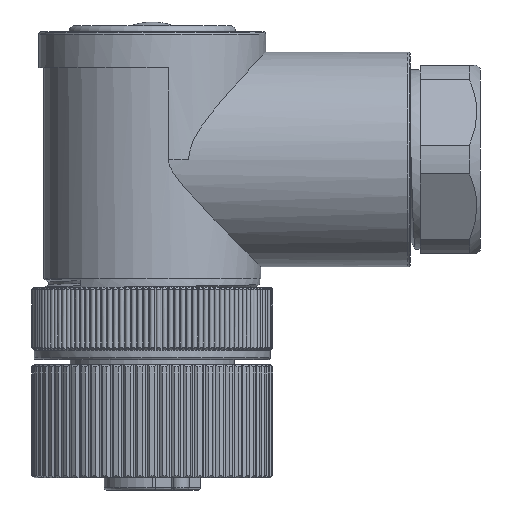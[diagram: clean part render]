
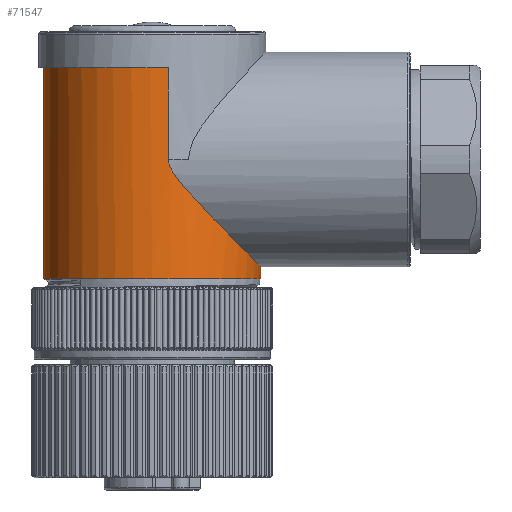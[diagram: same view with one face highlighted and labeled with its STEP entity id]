
A CAD part, front view. The second image highlights one B-rep face of the part: STEP entity #71547.
In plain terms, the highlighted cylindrical face has radius 9 mm (diameter 18 mm), a partial arc.
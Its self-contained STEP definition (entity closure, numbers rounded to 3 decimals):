
#20776=CARTESIAN_POINT('',(0.,0.,5.));
#20777=DIRECTION('',(0.,0.,-1.));
#20778=DIRECTION('',(1.,0.,0.));
#20779=AXIS2_PLACEMENT_3D('',#20776,#20777,#20778);
#20859=CARTESIAN_POINT('',(9.,0.,6.));
#20860=CARTESIAN_POINT('',(9.,-0.089,
6.));
#20861=CARTESIAN_POINT('',(8.997,-0.267,
6.003));
#20862=CARTESIAN_POINT('',(8.985,-0.534,
6.015));
#20863=CARTESIAN_POINT('',(8.966,-0.801,
6.035));
#20864=CARTESIAN_POINT('',(8.938,-1.068,
6.063));
#20865=CARTESIAN_POINT('',(8.902,-1.335,
6.099));
#20866=CARTESIAN_POINT('',(8.858,-1.603,
6.144));
#20867=CARTESIAN_POINT('',(8.805,-1.871,
6.197));
#20868=CARTESIAN_POINT('',(8.744,-2.139,
6.259));
#20869=CARTESIAN_POINT('',(8.674,-2.407,
6.33));
#20870=CARTESIAN_POINT('',(8.595,-2.676,
6.41));
#20871=CARTESIAN_POINT('',(8.506,-2.944,
6.5));
#20872=CARTESIAN_POINT('',(8.409,-3.213,
6.599));
#20873=CARTESIAN_POINT('',(8.301,-3.482,
6.708));
#20874=CARTESIAN_POINT('',(8.183,-3.75,
6.827));
#20875=CARTESIAN_POINT('',(8.055,-4.018,
6.957));
#20876=CARTESIAN_POINT('',(7.917,-4.285,
7.097));
#20877=CARTESIAN_POINT('',(7.767,-4.551,
7.249));
#20878=CARTESIAN_POINT('',(7.606,-4.815,
7.413));
#20879=CARTESIAN_POINT('',(7.433,-5.078,
7.588));
#20880=CARTESIAN_POINT('',(7.248,-5.338,
7.776));
#20881=CARTESIAN_POINT('',(7.052,-5.596,
7.977));
#20882=CARTESIAN_POINT('',(6.842,-5.85,
8.19));
#20883=CARTESIAN_POINT('',(6.62,-6.1,
8.416));
#20884=CARTESIAN_POINT('',(6.386,-6.345,
8.656));
#20885=CARTESIAN_POINT('',(6.138,-6.585,
8.909));
#20886=CARTESIAN_POINT('',(5.878,-6.818,
9.176));
#20887=CARTESIAN_POINT('',(5.605,-7.045,
9.457));
#20888=CARTESIAN_POINT('',(5.319,-7.263,
9.751));
#20889=CARTESIAN_POINT('',(5.022,-7.472,
10.06));
#20890=CARTESIAN_POINT('',(4.712,-7.671,
10.381));
#20891=CARTESIAN_POINT('',(4.393,-7.858,
10.716));
#20892=CARTESIAN_POINT('',(4.063,-8.034,
11.063));
#20893=CARTESIAN_POINT('',(3.727,-8.195,
11.42));
#20894=CARTESIAN_POINT('',(3.384,-8.342,
11.791));
#20895=CARTESIAN_POINT('',(3.048,-8.471,
12.16));
#20896=CARTESIAN_POINT('',(2.758,-8.568,
12.487));
#20897=CARTESIAN_POINT('',(2.508,-8.644,
12.776));
#20898=CARTESIAN_POINT('',(2.292,-8.704,
13.037));
#20899=CARTESIAN_POINT('',(2.107,-8.751,
13.27));
#20900=CARTESIAN_POINT('',(1.949,-8.787,
13.481));
#20901=CARTESIAN_POINT('',(1.816,-8.815,
13.67));
#20902=CARTESIAN_POINT('',(1.705,-8.837,
13.84));
#20903=CARTESIAN_POINT('',(1.615,-8.854,
13.993));
#20904=CARTESIAN_POINT('',(1.542,-8.867,
14.13));
#20905=CARTESIAN_POINT('',(1.485,-8.877,
14.252));
#20906=CARTESIAN_POINT('',(1.441,-8.884,
14.362));
#20907=CARTESIAN_POINT('',(1.406,-8.889,
14.464));
#20908=CARTESIAN_POINT('',(1.38,-8.894,
14.558));
#20909=CARTESIAN_POINT('',(1.361,-8.897,
14.647));
#20910=CARTESIAN_POINT('',(1.347,-8.899,
14.733));
#20911=CARTESIAN_POINT('',(1.34,-8.9,
14.817));
#20912=CARTESIAN_POINT('',(1.338,-8.9,
14.872));
#20913=CARTESIAN_POINT('',(1.338,-8.9,
14.9));
#28941=DIRECTION('',(0.,0.,-1.));
#28942=VECTOR('',#28941,1.);
#28943=CARTESIAN_POINT('',(9.,0.,6.));
#28944=LINE('',#28943,#28942);
#28945=DIRECTION('',(0.,0.,-1.));
#28946=VECTOR('',#28945,17.5);
#28947=CARTESIAN_POINT('',(-9.,0.,22.5));
#28948=LINE('',#28947,#28946);
#28949=DIRECTION('',(0.,0.,1.));
#28950=VECTOR('',#28949,7.581);
#28951=CARTESIAN_POINT('',(1.338,-8.9,
14.919));
#28952=LINE('',#28951,#28950);
#28953=CARTESIAN_POINT('',(1.338,-8.9,
14.9));
#28954=CARTESIAN_POINT('',(1.338,-8.9,
14.906));
#28955=CARTESIAN_POINT('',(1.338,-8.9,
14.913));
#28956=CARTESIAN_POINT('',(1.338,-8.9,
14.919));
#28962=CARTESIAN_POINT('',(0.,0.,22.5));
#28963=DIRECTION('',(0.,0.,1.));
#28964=DIRECTION('',(-1.,0.,0.));
#28965=AXIS2_PLACEMENT_3D('',#28962,#28963,#28964);
#42703=CARTESIAN_POINT('',(1.338,-8.9,22.5));
#42705=VERTEX_POINT('',#42703);
#42708=CARTESIAN_POINT('',(1.338,-8.9,
14.9));
#42710=VERTEX_POINT('',#42708);
#42980=CARTESIAN_POINT('',(9.,0.,6.));
#42982=VERTEX_POINT('',#42980);
#43007=CARTESIAN_POINT('',(-9.,0.,22.5));
#43008=CARTESIAN_POINT('',(-9.,0.,5.));
#43009=VERTEX_POINT('',#43007);
#43010=VERTEX_POINT('',#43008);
#43011=CARTESIAN_POINT('',(9.,0.,5.));
#43012=VERTEX_POINT('',#43011);
#43015=CARTESIAN_POINT('',(1.338,-8.9,
14.919));
#43016=VERTEX_POINT('',#43015);
#71530=CARTESIAN_POINT('',(0.,0.,4.5));
#71531=DIRECTION('',(0.,0.,-1.));
#71532=DIRECTION('',(-1.,0.,0.));
#71533=AXIS2_PLACEMENT_3D('',#71530,#71531,#71532);
#71534=CYLINDRICAL_SURFACE('',#71533,9.);
#71535=ORIENTED_EDGE('',*,*,#65577,.F.);
#71536=ORIENTED_EDGE('',*,*,#65462,.T.);
#71537=ORIENTED_EDGE('',*,*,#65433,.T.);
#71538=ORIENTED_EDGE('',*,*,#65459,.F.);
#71540=ORIENTED_EDGE('',*,*,#71539,.T.);
#71542=ORIENTED_EDGE('',*,*,#71541,.F.);
#71544=ORIENTED_EDGE('',*,*,#71543,.F.);
#71545=EDGE_LOOP('',(#71535,#71536,#71537,#71538,#71540,#71542,#71544));
#71546=FACE_OUTER_BOUND('',#71545,.F.);
#71547=ADVANCED_FACE('',(#71546),#71534,.T.);
#20780=CIRCLE('',#20779,9.);
#20914=B_SPLINE_CURVE_WITH_KNOTS('',3,(#20859,#20860,#20861,#20862,#20863,
#20864,#20865,#20866,#20867,#20868,#20869,#20870,#20871,#20872,#20873,#20874,
#20875,#20876,#20877,#20878,#20879,#20880,#20881,#20882,#20883,#20884,#20885,
#20886,#20887,#20888,#20889,#20890,#20891,#20892,#20893,#20894,#20895,#20896,
#20897,#20898,#20899,#20900,#20901,#20902,#20903,#20904,#20905,#20906,#20907,
#20908,#20909,#20910,#20911,#20912,#20913),.UNSPECIFIED.,.F.,.F.,(4,1,1,1,1,1,1,
1,1,1,1,1,1,1,1,1,1,1,1,1,1,1,1,1,1,1,1,1,1,1,1,1,1,1,1,1,1,1,1,1,1,1,1,1,1,1,1,
1,1,1,1,1,4),(0.,0.019,0.038,0.058,
0.077,0.096,0.115,0.135,
0.154,0.173,0.192,0.212,
0.231,0.25,0.269,0.288,0.308,
0.327,0.346,0.365,0.385,
0.404,0.423,0.442,0.462,
0.481,0.5,0.519,0.538,0.558,
0.577,0.596,0.615,0.635,
0.654,0.673,0.692,0.712,
0.731,0.75,0.769,0.788,0.808,
0.827,0.846,0.865,0.885,
0.904,0.923,0.942,0.962,
0.981,1.),.UNSPECIFIED.);
#28957=B_SPLINE_CURVE_WITH_KNOTS('',3,(#28953,#28954,#28955,#28956),
.UNSPECIFIED.,.F.,.F.,(4,4),(0.,1.),.UNSPECIFIED.);
#28966=CIRCLE('',#28965,9.);
#65433=EDGE_CURVE('',#43012,#43010,#20780,.T.);
#65459=EDGE_CURVE('',#43009,#43010,#28948,.T.);
#65462=EDGE_CURVE('',#42982,#43012,#28944,.T.);
#65577=EDGE_CURVE('',#42982,#42710,#20914,.T.);
#71539=EDGE_CURVE('',#43009,#42705,#28966,.T.);
#71541=EDGE_CURVE('',#43016,#42705,#28952,.T.);
#71543=EDGE_CURVE('',#42710,#43016,#28957,.T.);
